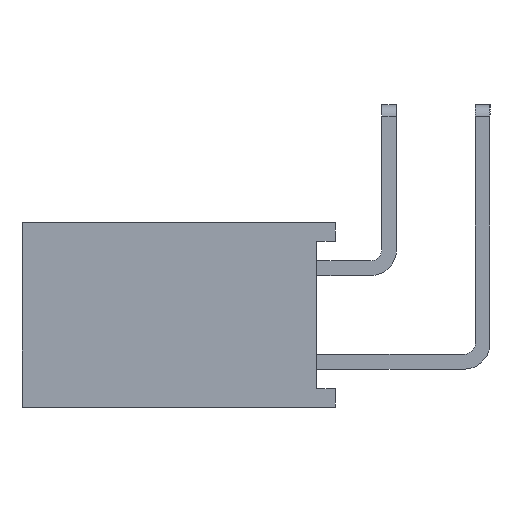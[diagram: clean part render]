
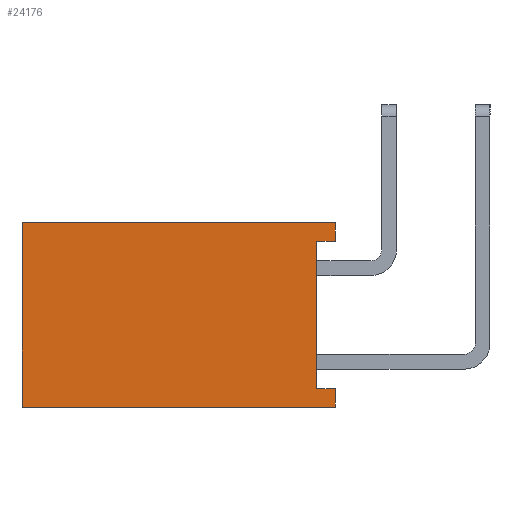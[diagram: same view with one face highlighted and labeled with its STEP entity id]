
A CAD part, left-side view. The second image highlights one B-rep face of the part: STEP entity #24176.
In plain terms, the highlighted planar face has unit normal (-1, 0, 0).
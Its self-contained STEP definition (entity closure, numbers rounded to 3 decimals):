
#59 = CARTESIAN_POINT ( 'NONE',  ( -12.7, 0., -0.5 ) ) ;
#1107 = EDGE_CURVE ( 'NONE', #15449, #22729, #18635, .T. ) ;
#1184 = CARTESIAN_POINT ( 'NONE',  ( -12.7, 0., -5. ) ) ;
#1280 = VECTOR ( 'NONE', #33409, 1000. ) ;
#3264 = AXIS2_PLACEMENT_3D ( 'NONE', #28766, #25942, #34816 ) ;
#3854 = CARTESIAN_POINT ( 'NONE',  ( -12.7, 0., -4.5 ) ) ;
#4032 = DIRECTION ( 'NONE',  ( 0., 0., 1. ) ) ;
#4980 = DIRECTION ( 'NONE',  ( 0., 1., 0. ) ) ;
#5279 = LINE ( 'NONE', #20007, #31471 ) ;
#5907 = VECTOR ( 'NONE', #21000, 1000. ) ;
#7129 = VERTEX_POINT ( 'NONE', #21409 ) ;
#7631 = VERTEX_POINT ( 'NONE', #3854 ) ;
#7807 = LINE ( 'NONE', #30852, #16816 ) ;
#7968 = ORIENTED_EDGE ( 'NONE', *, *, #1107, .F. ) ;
#8909 = VERTEX_POINT ( 'NONE', #15939 ) ;
#9171 = CARTESIAN_POINT ( 'NONE',  ( -12.7, 8.5, 0. ) ) ;
#9560 = LINE ( 'NONE', #15411, #13503 ) ;
#9702 = EDGE_CURVE ( 'NONE', #8909, #7631, #10555, .T. ) ;
#10137 = DIRECTION ( 'NONE',  ( 0., 0., -1. ) ) ;
#10156 = EDGE_LOOP ( 'NONE', ( #21264, #24984, #32474, #10892, #33996, #22034, #30767, #7968 ) ) ;
#10555 = LINE ( 'NONE', #33774, #1280 ) ;
#10892 = ORIENTED_EDGE ( 'NONE', *, *, #16595, .F. ) ;
#11347 = VERTEX_POINT ( 'NONE', #59 ) ;
#12208 = CARTESIAN_POINT ( 'NONE',  ( -12.7, 0.5, -4.5 ) ) ;
#12520 = EDGE_CURVE ( 'NONE', #8909, #31301, #30055, .T. ) ;
#13168 = VERTEX_POINT ( 'NONE', #9171 ) ;
#13503 = VECTOR ( 'NONE', #23913, 1000. ) ;
#15411 = CARTESIAN_POINT ( 'NONE',  ( -12.7, 0., -0.5 ) ) ;
#15449 = VERTEX_POINT ( 'NONE', #28308 ) ;
#15706 = EDGE_CURVE ( 'NONE', #22729, #7631, #32652, .T. ) ;
#15939 = CARTESIAN_POINT ( 'NONE',  ( -12.7, 0., -5. ) ) ;
#16355 = CARTESIAN_POINT ( 'NONE',  ( -12.7, 0.5, -1.099 ) ) ;
#16595 = EDGE_CURVE ( 'NONE', #31301, #13168, #5279, .T. ) ;
#16816 = VECTOR ( 'NONE', #4980, 1000. ) ;
#16981 = VECTOR ( 'NONE', #10137, 1000. ) ;
#18635 = LINE ( 'NONE', #16355, #16981 ) ;
#20007 = CARTESIAN_POINT ( 'NONE',  ( -12.7, 8.5, -5. ) ) ;
#21000 = DIRECTION ( 'NONE',  ( 0., 1., 0. ) ) ;
#21264 = ORIENTED_EDGE ( 'NONE', *, *, #23855, .F. ) ;
#21409 = CARTESIAN_POINT ( 'NONE',  ( -12.7, 0., 0. ) ) ;
#21994 = VECTOR ( 'NONE', #4032, 1000. ) ;
#22034 = ORIENTED_EDGE ( 'NONE', *, *, #9702, .T. ) ;
#22729 = VERTEX_POINT ( 'NONE', #12208 ) ;
#23124 = PLANE ( 'NONE',  #3264 ) ;
#23302 = FACE_OUTER_BOUND ( 'NONE', #10156, .T. ) ;
#23855 = EDGE_CURVE ( 'NONE', #11347, #15449, #9560, .T. ) ;
#23913 = DIRECTION ( 'NONE',  ( 0., 1., 0. ) ) ;
#24144 = CARTESIAN_POINT ( 'NONE',  ( -12.7, 0., -4.5 ) ) ;
#24176 = ADVANCED_FACE ( 'NONE', ( #23302 ), #23124, .T. ) ;
#24984 = ORIENTED_EDGE ( 'NONE', *, *, #26580, .T. ) ;
#25169 = CARTESIAN_POINT ( 'NONE',  ( -12.7, 8.5, -5. ) ) ;
#25396 = VECTOR ( 'NONE', #33386, 1000. ) ;
#25942 = DIRECTION ( 'NONE',  ( -1., 0., 0. ) ) ;
#26580 = EDGE_CURVE ( 'NONE', #11347, #7129, #35011, .T. ) ;
#28308 = CARTESIAN_POINT ( 'NONE',  ( -12.7, 0.5, -0.5 ) ) ;
#28766 = CARTESIAN_POINT ( 'NONE',  ( -12.7, 0., -5. ) ) ;
#29805 = EDGE_CURVE ( 'NONE', #7129, #13168, #7807, .T. ) ;
#30055 = LINE ( 'NONE', #1184, #5907 ) ;
#30767 = ORIENTED_EDGE ( 'NONE', *, *, #15706, .F. ) ;
#30852 = CARTESIAN_POINT ( 'NONE',  ( -12.7, 0., 0. ) ) ;
#31301 = VERTEX_POINT ( 'NONE', #25169 ) ;
#31471 = VECTOR ( 'NONE', #36826, 1000. ) ;
#32474 = ORIENTED_EDGE ( 'NONE', *, *, #29805, .T. ) ;
#32558 = CARTESIAN_POINT ( 'NONE',  ( -12.7, 0., -5. ) ) ;
#32652 = LINE ( 'NONE', #24144, #25396 ) ;
#33386 = DIRECTION ( 'NONE',  ( 0., -1., 0. ) ) ;
#33409 = DIRECTION ( 'NONE',  ( 0., 0., 1. ) ) ;
#33774 = CARTESIAN_POINT ( 'NONE',  ( -12.7, 0., -5. ) ) ;
#33996 = ORIENTED_EDGE ( 'NONE', *, *, #12520, .F. ) ;
#34816 = DIRECTION ( 'NONE',  ( 0., 0., 1. ) ) ;
#35011 = LINE ( 'NONE', #32558, #21994 ) ;
#36826 = DIRECTION ( 'NONE',  ( 0., 0., 1. ) ) ;
